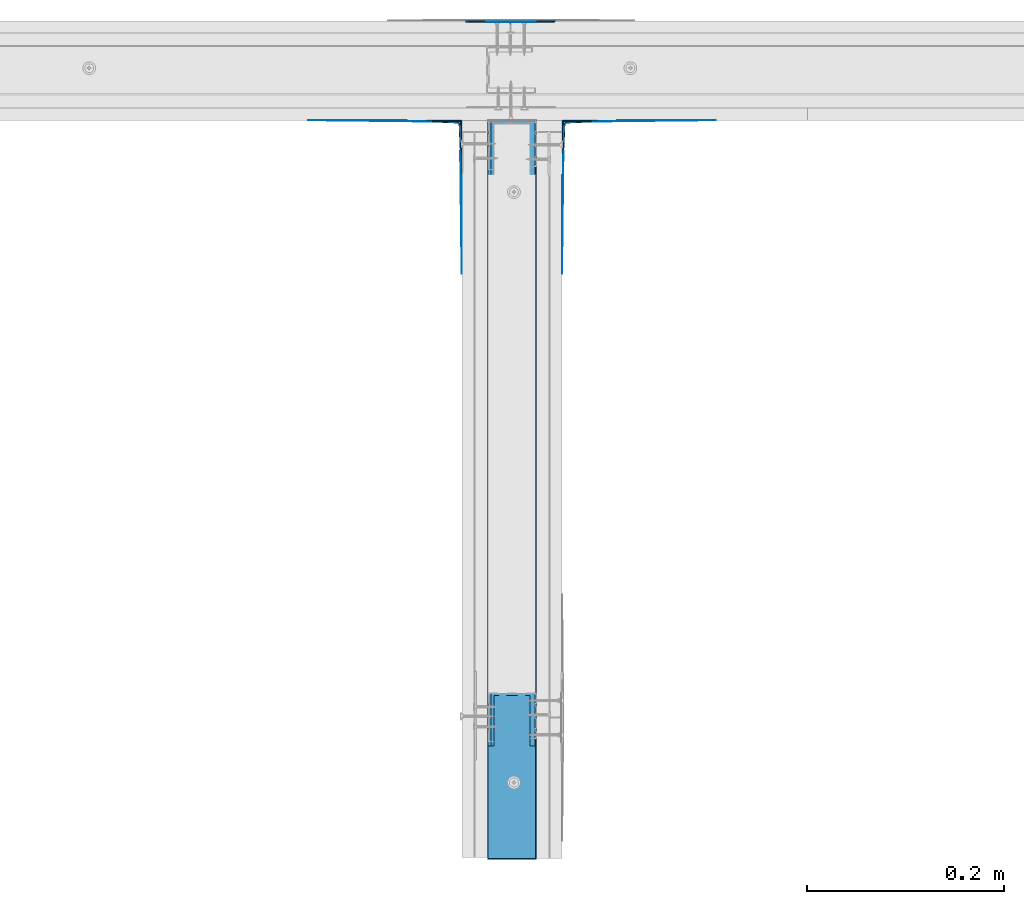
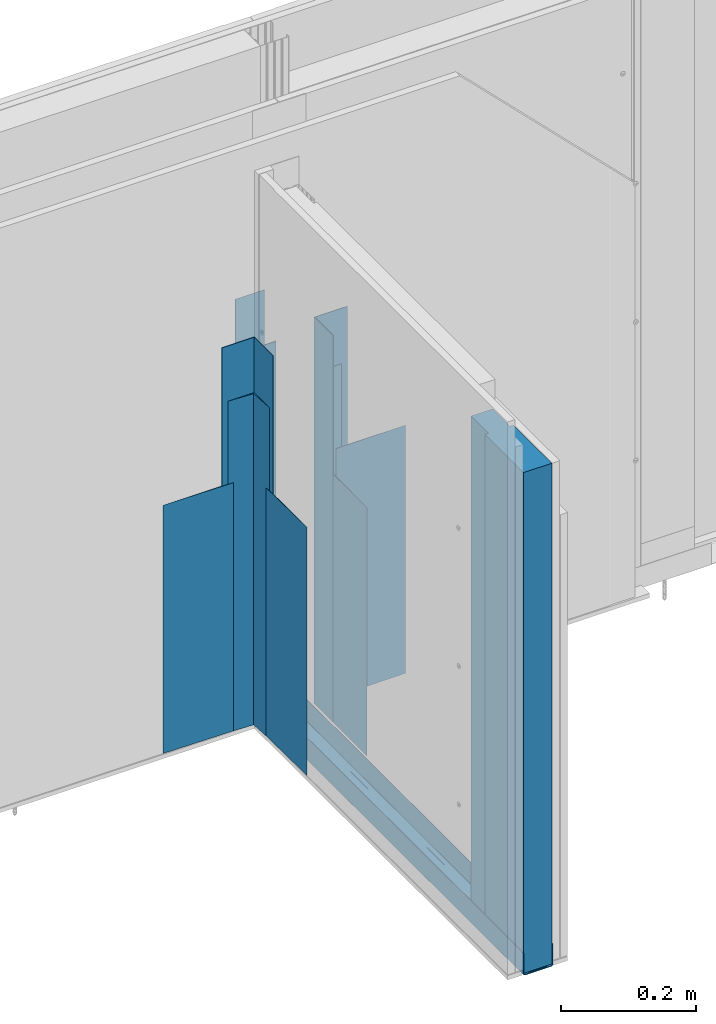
# One storey, part 5 of 89: 13 walls.
"""IFC2X3 building model written with IfcOpenShell, lengths in millimetres."""

import ifcopenshell
import ifcopenshell.guid

model = None  # the IFC model being written
_history = None  # IfcOwnerHistory: only IFC2X3 demands one
_inside = {}  # id of a spatial element -> (the spatial element, [elements in it])
_under = {}  # id of a project, library or spatial element -> (it, [spatial elements below it])
_declared = {}  # id of a project -> (the project, [libraries it declares])
_typed = {}  # id of a type object -> (the type object, [elements of that type])
_made_of = {}  # id of a material, layer set ... -> (it, [elements and type objects made of it])


def new_model(schema):
    """Start an empty IFC model of exactly this schema.

    Asked for "IFC4X3", IfcOpenShell would pick the latest addendum, in which some entities
    have other attributes; the version numbers below select the first issue.
    IFC2X3 requires an IfcOwnerHistory on every rooted entity: one is made here for all.
    """
    global model, _history
    if schema == "IFC4X3":
        model = ifcopenshell.file(schema_version=(4, 3, 0, 0))
    else:
        model = ifcopenshell.file(schema=schema)
    _inside.clear()
    _under.clear()
    _declared.clear()
    _typed.clear()
    _made_of.clear()
    _history = None
    if model.schema == "IFC2X3":
        org = make("IfcOrganization", Name="unknown")
        user = make(
            "IfcPersonAndOrganization",
            ThePerson=make("IfcPerson", FamilyName="unknown"),
            TheOrganization=org,
        )
        app = make(
            "IfcApplication",
            ApplicationDeveloper=org,
            Version="unknown",
            ApplicationFullName="unknown",
            ApplicationIdentifier="unknown",
        )
        _history = make(
            "IfcOwnerHistory",
            OwningUser=user,
            OwningApplication=app,
            ChangeAction="ADDED",
            CreationDate=0,
        )
    return model


def make(cls, **values):
    """One entity of the class cls with the attributes given. An attribute that is None is left unset."""
    return model.create_entity(
        cls, **{name: value for name, value in values.items() if value is not None}
    )


def entity(cls, *values):
    """Any entity or typed value of the class cls, its attributes in the order of the schema. None: left unset."""
    e = model.create_entity(cls)
    for i, value in enumerate(values):
        if value is not None:
            e[i] = value
    return e


def rooted(cls, **values):
    """An entity with a GlobalId (a new one), such as an element, a storey or a relation."""
    return make(cls, GlobalId=ifcopenshell.guid.new(), OwnerHistory=_history, **values)


def si_unit(unit_type, name, prefix=None):
    """IfcSIUnit, for example si_unit("LENGTHUNIT", "METRE", prefix="MILLI")."""
    return make("IfcSIUnit", UnitType=unit_type, Prefix=prefix, Name=name)


def converted_unit(unit_type, name, factor, base, dimensions=None, offset=None):
    """IfcConversionBasedUnit, such as the inch: factor (a typed value) times the base unit."""
    return make(
        "IfcConversionBasedUnit"
        if offset is None
        else "IfcConversionBasedUnitWithOffset",
        ConversionOffset=offset,
        Dimensions=None
        if dimensions is None
        else entity("IfcDimensionalExponents", *dimensions),
        UnitType=unit_type,
        Name=name,
        ConversionFactor=make(
            "IfcMeasureWithUnit", ValueComponent=factor, UnitComponent=base
        ),
    )


def assignment(units):
    """IfcUnitAssignment: the units of a project."""
    return None if units is None else make("IfcUnitAssignment", Units=units)


def point(xyz):
    """IfcCartesianPoint."""
    return None if xyz is None else make("IfcCartesianPoint", Coordinates=xyz)


def direction(xyz):
    """IfcDirection."""
    return None if xyz is None else make("IfcDirection", DirectionRatios=xyz)


def frame(location, z_axis=None, x_axis=None):
    """IfcAxis2Placement3D, a coordinate frame: its origin and axes. An axis left out is left unset."""
    return make(
        "IfcAxis2Placement3D",
        Location=point(location),
        Axis=direction(z_axis),
        RefDirection=direction(x_axis),
    )


def origin():
    """The frame at (0, 0, 0) with its axes left unset."""
    return frame((0.0, 0.0, 0.0))


def origin_with_axes():
    """The frame at (0, 0, 0) with the z axis (0, 0, 1) and the x axis (1, 0, 0) written out."""
    return frame((0.0, 0.0, 0.0), z_axis=(0.0, 0.0, 1.0), x_axis=(1.0, 0.0, 0.0))


def place(relative_to, where):
    """IfcLocalPlacement: puts the frame where relative to a parent placement (None: the world)."""
    return make(
        "IfcLocalPlacement", PlacementRelTo=relative_to, RelativePlacement=where
    )


def context(
    kind, dimensions, precision=None, world=None, true_north=None, identifier=None
):
    """IfcGeometricRepresentationContext, for example the 3D "Model" context."""
    return make(
        "IfcGeometricRepresentationContext",
        ContextIdentifier=identifier,
        ContextType=kind,
        CoordinateSpaceDimension=dimensions,
        Precision=precision,
        WorldCoordinateSystem=world,
        TrueNorth=true_north,
    )


def project(units=None, contexts=None):
    """IfcProject with its units and contexts."""
    return rooted(
        "IfcProject",
        Name="project",
        RepresentationContexts=contexts,
        UnitsInContext=assignment(units),
    )


def spatial(cls, under=None, at=None, **own):
    """A site, building, storey or space (cls), placed at a placement, below another one or the project."""
    s = rooted(cls, ObjectPlacement=at, **own)
    if under is not None:
        _under.setdefault(under.id(), (under, []))[1].append(s)
    return s


def faces_of(points, faces, orient=None, outer=None):
    """IfcFace entities. A face is a list of loops; a loop is a list of indices into points, from 0.

    orient and outer hold one flag for each loop. By default every Orientation is true, the
    first loop of a face is its IfcFaceOuterBound and the others are IfcFaceBound.
    """
    made = []
    for i, loops in enumerate(faces):
        bounds = []
        for j, loop in enumerate(loops):
            is_outer = j == 0 if outer is None else outer[i][j]
            bounds.append(
                make(
                    "IfcFaceOuterBound" if is_outer else "IfcFaceBound",
                    Bound=make("IfcPolyLoop", Polygon=[points[k] for k in loop]),
                    Orientation=True if orient is None else orient[i][j],
                )
            )
        made.append(make("IfcFace", Bounds=bounds))
    return made


def faceted_brep(points, faces, orient=None, outer=None, voids=None):
    """IfcFacetedBrep: a solid bounded by flat faces; with voids (closed shells), ...WithVoids."""
    shared = [point(p) for p in points]
    hull = make("IfcClosedShell", CfsFaces=faces_of(shared, faces, orient, outer))
    if voids is None:
        return make("IfcFacetedBrep", Outer=hull)
    return make(
        "IfcFacetedBrepWithVoids",
        Outer=hull,
        Voids=[
            make(cls, CfsFaces=faces_of(shared, fs, o, b)) for cls, fs, o, b in voids
        ],
    )


def shape(context_of_items, identifier, shape_type, items):
    """IfcShapeRepresentation: the items that make up one representation, for example the "Body"."""
    return make(
        "IfcShapeRepresentation",
        ContextOfItems=context_of_items,
        RepresentationIdentifier=identifier,
        RepresentationType=shape_type,
        Items=items,
    )


def made_of(thing, what):
    """Note that an element or type object is made of a material, layer set ...; save() writes the relation."""
    if what is not None:
        _made_of.setdefault(what.id(), (what, []))[1].append(thing)
    return thing


def element(
    cls,
    number,
    at=None,
    inside=None,
    cuts=None,
    type_object=None,
    material=None,
    context=None,
    identifier="Body",
    shape_type=None,
    held_by="IfcProductDefinitionShape",
    body=None,
    shapes=None,
    **own,
):
    """One element of the class cls, such as IfcWall. Its Tag is "e" and its number.

    at: its placement. inside: the storey or other place that contains it. cuts: it is an
    opening in that element (IfcRelVoidsElement). A single representation is given by context,
    identifier, shape_type and body (its items); several are given by shapes. held_by: the class
    of the entity that holds the representations. save() writes the other relations.
    """
    e = rooted(cls, Tag="e%d" % number, ObjectPlacement=at, **own)
    if body is not None:
        shapes = [shape(context, identifier, shape_type, body)]
    if shapes is not None:
        e.Representation = make(held_by, Representations=shapes)
    if inside is not None:
        _inside.setdefault(inside.id(), (inside, []))[1].append(e)
    if cuts is not None:
        rooted(
            "IfcRelVoidsElement", RelatingBuildingElement=cuts, RelatedOpeningElement=e
        )
    if type_object is not None:
        _typed.setdefault(type_object.id(), (type_object, []))[1].append(e)
    return made_of(e, material)


def aggregate(whole, parts):
    """IfcRelAggregates: a whole, such as a stair, and the parts it consists of."""
    return rooted("IfcRelAggregates", RelatingObject=whole, RelatedObjects=parts)


def save(model, path):
    """Write the relations noted so far, then the file.

    IfcRelAggregates (storeys below a building ...), IfcRelContainedInSpatialStructure (elements
    in a storey), IfcRelDefinesByType, IfcRelAssociatesMaterial and IfcRelDeclares: one each for
    every whole, place, type object, material and project.
    """
    for whole, parts in _under.values():
        aggregate(whole, parts)
    for where, things in _inside.values():
        rooted(
            "IfcRelContainedInSpatialStructure",
            RelatedElements=things,
            RelatingStructure=where,
        )
    for kind, things in _typed.values():
        rooted("IfcRelDefinesByType", RelatedObjects=things, RelatingType=kind)
    for what, things in _made_of.values():
        rooted("IfcRelAssociatesMaterial", RelatedObjects=things, RelatingMaterial=what)
    for by, libraries in _declared.values():
        rooted("IfcRelDeclares", RelatingContext=by, RelatedDefinitions=libraries)
    model.write(path)


model = new_model("IFC2X3")

# Units and contexts
model_context = context("Model", 3, precision=1e-05, world=origin(), true_north=direction((0.0, 1.0, 0.0)))
ifc_project = project(units=[si_unit("LENGTHUNIT", "METRE", prefix="MILLI"), si_unit("AREAUNIT", "SQUARE_METRE"), si_unit("VOLUMEUNIT", "CUBIC_METRE"), converted_unit("PLANEANGLEUNIT", "DEGREE", entity("IfcPlaneAngleMeasure", 0.01745), si_unit("PLANEANGLEUNIT", "RADIAN"), dimensions=[0, 0, 0, 0, 0, 0, 0]), si_unit("SOLIDANGLEUNIT", "STERADIAN"), si_unit("MASSUNIT", "GRAM"), si_unit("TIMEUNIT", "SECOND"), si_unit("THERMODYNAMICTEMPERATUREUNIT", "DEGREE_CELSIUS"), si_unit("LUMINOUSINTENSITYUNIT", "LUMEN")], contexts=[model_context])

# Site, building, storey
site_placement = place(None, origin_with_axes())
site = spatial("IfcSite", under=ifc_project, at=site_placement, Name="Default Site", CompositionType="ELEMENT")
building_placement = place(site_placement, origin_with_axes())
building = spatial("IfcBuilding", under=site, at=building_placement, Name="Default Building", CompositionType="ELEMENT")
storey_placement = place(building_placement, origin_with_axes())
storey = spatial("IfcBuildingStorey", under=building, at=storey_placement, Name="Default Building Storey", CompositionType="ELEMENT", Elevation=0.0)

# Walls
wall_1_placement = place(storey_placement, frame((6271.757332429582, 1398.641032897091, 8.248997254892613), z_axis=(-6.858158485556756e-13, -8.981899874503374e-14, 1.0), x_axis=(9.63732535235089e-16, -1.0, -6.464899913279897e-14)))
element("IfcWall", 1, at=wall_1_placement, inside=storey, Name="Profil RIGIPS UW 50 ULTRASTIL®", context=model_context, shape_type="Brep", body=[
    faceted_brep([(-623.1047574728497, -3479.733223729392, 35.00000000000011), (-623.1047574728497, -3480.283223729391, 35.00000000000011), (-623.1047574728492, -3480.283223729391, -4.19999999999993), (-623.1047574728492, -3480.273374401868, -4.32514757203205), (-623.1047574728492, -3480.244068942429, -4.447213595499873), (-623.1047574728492, -3480.196028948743, -4.563192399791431), (-623.1047574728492, -3480.130437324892, -4.670228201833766), (-623.1047574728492, -3480.04890915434, -4.765685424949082), (-623.1047574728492, -3479.953451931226, -4.84721359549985), (-623.1047574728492, -3479.846416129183, -4.912805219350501), (-623.1047574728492, -3479.730437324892, -4.960845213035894), (-623.1047574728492, -3479.608371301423, -4.990150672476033), (-623.1047574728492, -3479.483223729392, -4.999999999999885), (-623.1047574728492, -3470.908620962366, -4.999999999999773), (-623.1047574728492, -3470.686924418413, -4.975115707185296), (-623.1047574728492, -3470.476261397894, -4.901701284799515), (-623.1047574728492, -3470.128902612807, -4.626130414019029), (-623.1047574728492, -3470.009494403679, -4.437688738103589), (-623.1047574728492, -3469.68072520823, -3.762311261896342), (-623.1047574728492, -3469.561316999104, -3.573869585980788), (-623.1047574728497, -3469.403103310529, -3.416589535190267), (-623.1047574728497, -3469.213958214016, -3.298298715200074), (-623.1047574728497, -3469.003295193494, -3.224884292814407), (-623.1047574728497, -3468.781598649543, -3.19999999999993), (-623.1047574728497, -3441.78484880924, -3.199999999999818), (-623.1047574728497, -3441.563152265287, -3.224884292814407), (-623.1047574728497, -3441.352489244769, -3.298298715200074), (-623.1047574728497, -3441.163344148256, -3.416589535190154), (-623.1047574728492, -3441.005130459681, -3.573869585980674), (-623.1047574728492, -3440.885722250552, -3.762311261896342), (-623.1047574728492, -3440.556953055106, -4.437688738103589), (-623.1047574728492, -3440.437544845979, -4.626130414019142), (-623.1047574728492, -3440.279331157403, -4.783410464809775), (-623.1047574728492, -3439.87952304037, -4.97511570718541), (-623.1047574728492, -3439.657826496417, -4.999999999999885), (-623.1047574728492, -3431.083223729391, -4.999999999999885), (-623.1047574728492, -3430.95807615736, -4.990150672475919), (-623.1047574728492, -3430.836010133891, -4.960845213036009), (-623.1047574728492, -3430.7200313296, -4.912805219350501), (-623.1047574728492, -3430.612995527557, -4.847213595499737), (-623.1047574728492, -3430.517538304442, -4.765685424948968), (-623.1047574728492, -3430.436010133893, -4.670228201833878), (-623.1047574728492, -3430.370418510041, -4.563192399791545), (-623.1047574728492, -3430.322378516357, -4.447213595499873), (-623.1047574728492, -3430.293073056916, -4.32514757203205), (-623.1047574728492, -3430.283223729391, -4.19999999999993), (-623.1047574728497, -3430.283223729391, 35.00000000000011), (-623.1047574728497, -3430.833223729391, 35.00000000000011), (-623.1047574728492, -3430.833223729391, -4.19999999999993), (-623.1047574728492, -3430.836301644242, -4.239108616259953), (-623.1047574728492, -3430.845459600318, -4.277254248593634), (-623.1047574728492, -3430.860472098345, -4.313497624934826), (-623.1047574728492, -3430.880969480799, -4.34694631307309), (-623.1047574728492, -3430.906447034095, -4.376776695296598), (-623.1047574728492, -3430.93627741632, -4.402254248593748), (-623.1047574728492, -3430.969726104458, -4.422751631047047), (-623.1047574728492, -3431.005969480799, -4.437764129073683), (-623.1047574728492, -3431.044115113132, -4.446922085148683), (-623.1047574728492, -3431.083223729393, -4.44999999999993), (-623.1047574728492, -3439.313858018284, -4.450000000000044), (-623.1047574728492, -3439.535554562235, -4.425115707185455), (-623.1047574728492, -3439.746217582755, -4.351701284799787), (-623.1047574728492, -3439.935362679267, -4.233410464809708), (-623.1047574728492, -3440.093576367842, -4.076130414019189), (-623.1047574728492, -3440.21298457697, -3.88768873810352), (-623.1047574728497, -3440.541753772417, -3.212311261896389), (-623.1047574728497, -3440.661161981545, -3.023869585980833), (-623.1047574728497, -3440.819375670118, -2.866589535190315), (-623.1047574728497, -3441.219183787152, -2.674884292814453), (-623.1047574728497, -3441.440880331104, -2.649999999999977), (-623.1047574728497, -3469.125567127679, -2.649999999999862), (-623.1047574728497, -3469.347263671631, -2.674884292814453), (-623.1047574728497, -3469.557926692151, -2.748298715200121), (-623.1047574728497, -3469.905285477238, -3.023869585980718), (-623.1047574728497, -3470.024693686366, -3.212311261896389), (-623.1047574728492, -3470.353462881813, -3.88768873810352), (-623.1047574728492, -3470.472871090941, -4.076130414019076), (-623.1047574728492, -3470.631084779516, -4.233410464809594), (-623.1047574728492, -3470.82022987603, -4.351701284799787), (-623.1047574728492, -3471.030892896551, -4.425115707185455), (-623.1047574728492, -3471.252589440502, -4.44999999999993), (-623.1047574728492, -3479.483223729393, -4.449999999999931), (-623.1047574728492, -3479.522332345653, -4.446922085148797), (-623.1047574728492, -3479.560477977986, -4.437764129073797), (-623.1047574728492, -3479.596721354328, -4.422751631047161), (-623.1047574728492, -3479.630170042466, -4.402254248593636), (-623.1047574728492, -3479.660000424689, -4.376776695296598), (-623.1047574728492, -3479.685477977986, -4.34694631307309), (-623.1047574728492, -3479.705975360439, -4.313497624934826), (-623.1047574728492, -3479.720987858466, -4.277254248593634), (-623.1047574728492, -3479.730145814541, -4.239108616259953), (-623.1047574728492, -3479.733223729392, -4.19999999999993), (127.7471376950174, -3480.283223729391, -4.200000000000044), (127.7471376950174, -3480.283223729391, 35.0), (127.7471376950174, -3479.733223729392, 35.0), (127.7471376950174, -3479.733223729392, -4.200000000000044), (127.7471376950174, -3479.730145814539, -4.239108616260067), (127.7471376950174, -3479.720987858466, -4.277254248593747), (127.7471376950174, -3479.705975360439, -4.313497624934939), (127.7471376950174, -3479.685477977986, -4.346946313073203), (127.7471376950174, -3479.660000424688, -4.376776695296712), (127.7471376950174, -3479.630170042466, -4.402254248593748), (127.7471376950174, -3479.596721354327, -4.422751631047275), (127.7471376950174, -3479.560477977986, -4.43776412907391), (127.7471376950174, -3479.522332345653, -4.446922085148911), (127.7471376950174, -3479.483223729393, -4.450000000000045), (127.7471376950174, -3471.252589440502, -4.450000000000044), (127.7471376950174, -3471.03089289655, -4.425115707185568), (127.7471376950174, -3470.820229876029, -4.351701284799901), (127.7471376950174, -3470.631084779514, -4.233410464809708), (127.7471376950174, -3470.472871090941, -4.076130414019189), (127.7471376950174, -3470.353462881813, -3.887688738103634), (127.7471376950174, -3470.024693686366, -3.212311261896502), (127.7471376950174, -3469.905285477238, -3.023869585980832), (127.7471376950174, -3469.557926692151, -2.748298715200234), (127.7471376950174, -3469.34726367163, -2.674884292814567), (127.7471376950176, -3469.125567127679, -2.649999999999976), (127.7471376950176, -3441.440880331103, -2.65000000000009), (127.7471376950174, -3441.219183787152, -2.674884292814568), (127.7471376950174, -3440.819375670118, -2.866589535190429), (127.7471376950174, -3440.661161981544, -3.023869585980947), (127.7471376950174, -3440.541753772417, -3.212311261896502), (127.7471376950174, -3440.212984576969, -3.887688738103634), (127.7471376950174, -3440.093576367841, -4.076130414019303), (127.7471376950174, -3439.935362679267, -4.233410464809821), (127.7471376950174, -3439.746217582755, -4.351701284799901), (127.7471376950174, -3439.535554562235, -4.425115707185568), (127.7471376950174, -3439.313858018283, -4.450000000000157), (127.7471376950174, -3431.083223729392, -4.450000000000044), (127.7471376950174, -3431.044115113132, -4.446922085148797), (127.7471376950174, -3431.005969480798, -4.437764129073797), (127.7471376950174, -3430.969726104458, -4.422751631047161), (127.7471376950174, -3430.936277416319, -4.402254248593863), (127.7471376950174, -3430.906447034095, -4.376776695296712), (127.7471376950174, -3430.880969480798, -4.346946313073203), (127.7471376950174, -3430.860472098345, -4.313497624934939), (127.7471376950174, -3430.845459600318, -4.277254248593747), (127.7471376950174, -3430.836301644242, -4.239108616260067), (127.7471376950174, -3430.833223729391, -4.200000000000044), (127.7471376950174, -3430.833223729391, 35.0), (127.7471376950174, -3430.283223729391, 35.0), (127.7471376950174, -3430.283223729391, -4.200000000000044), (127.7471376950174, -3430.293073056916, -4.325147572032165), (127.7471376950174, -3430.322378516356, -4.447213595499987), (127.7471376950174, -3430.370418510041, -4.563192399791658), (127.7471376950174, -3430.436010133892, -4.670228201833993), (127.7471376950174, -3430.517538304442, -4.765685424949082), (127.7471376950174, -3430.612995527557, -4.84721359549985), (127.7471376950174, -3430.7200313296, -4.912805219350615), (127.7471376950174, -3430.836010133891, -4.960845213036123), (127.7471376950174, -3430.958076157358, -4.990150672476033), (127.7471376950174, -3431.083223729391, -4.999999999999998), (127.7471376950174, -3439.657826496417, -4.999999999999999), (127.7471376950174, -3439.879523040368, -4.975115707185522), (127.7471376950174, -3440.279331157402, -4.783410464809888), (127.7471376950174, -3440.437544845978, -4.626130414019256), (127.7471376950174, -3440.556953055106, -4.437688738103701), (127.7471376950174, -3440.885722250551, -3.762311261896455), (127.7471376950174, -3441.005130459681, -3.573869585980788), (127.7471376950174, -3441.163344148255, -3.416589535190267), (127.7471376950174, -3441.352489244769, -3.298298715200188), (127.7471376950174, -3441.563152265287, -3.224884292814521), (127.7471376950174, -3441.78484880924, -3.199999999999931), (127.7471376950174, -3468.781598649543, -3.200000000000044), (127.7471376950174, -3469.003295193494, -3.224884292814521), (127.7471376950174, -3469.213958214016, -3.298298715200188), (127.7471376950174, -3469.403103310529, -3.416589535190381), (127.7471376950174, -3469.561316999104, -3.573869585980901), (127.7471376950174, -3469.680725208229, -3.762311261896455), (127.7471376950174, -3470.009494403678, -4.437688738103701), (127.7471376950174, -3470.128902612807, -4.626130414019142), (127.7471376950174, -3470.476261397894, -4.901701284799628), (127.7471376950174, -3470.686924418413, -4.97511570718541), (127.7471376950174, -3470.908620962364, -4.999999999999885), (127.7471376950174, -3479.483223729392, -4.999999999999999), (127.7471376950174, -3479.608371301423, -4.990150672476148), (127.7471376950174, -3479.73043732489, -4.960845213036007), (127.7471376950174, -3479.846416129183, -4.912805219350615), (127.7471376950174, -3479.953451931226, -4.847213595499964), (127.7471376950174, -3480.04890915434, -4.765685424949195), (127.7471376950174, -3480.130437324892, -4.670228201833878), (127.7471376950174, -3480.196028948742, -4.563192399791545), (127.7471376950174, -3480.244068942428, -4.447213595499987), (127.7471376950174, -3480.273374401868, -4.325147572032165), (-623.1047574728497, -3441.008520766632, -2.748298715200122), (127.7471376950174, -3441.008520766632, -2.748298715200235), (-623.1047574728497, -3469.747071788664, -2.8665895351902), (127.7471376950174, -3469.747071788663, -2.866589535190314), (-623.1047574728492, -3470.063927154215, -4.535249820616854), (127.7471376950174, -3470.063927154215, -4.535249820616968), (-623.1047574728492, -3470.287116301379, -4.783410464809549), (127.7471376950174, -3470.287116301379, -4.783410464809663), (-623.1047574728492, -3440.09018606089, -4.901701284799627), (127.7471376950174, -3440.09018606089, -4.90170128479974)], [[[0, 1, 2, 3, 4, 5, 6, 7, 8, 9, 10, 11, 12, 13, 14, 15, 16, 17, 18, 19, 20, 21, 22, 23, 24, 25, 26, 27, 28, 29, 30, 31, 32, 33, 34, 35, 36, 37, 38, 39, 40, 41, 42, 43, 44, 45, 46, 47, 48, 49, 50, 51, 52, 53, 54, 55, 56, 57, 58, 59, 60, 61, 62, 63, 64, 65, 66, 67, 68, 69, 70, 71, 72, 73, 74, 75, 76, 77, 78, 79, 80, 81, 82, 83, 84, 85, 86, 87, 88, 89, 90, 91]], [[92, 93, 94, 95, 96, 97, 98, 99, 100, 101, 102, 103, 104, 105, 106, 107, 108, 109, 110, 111, 112, 113, 114, 115, 116, 117, 118, 119, 120, 121, 122, 123, 124, 125, 126, 127, 128, 129, 130, 131, 132, 133, 134, 135, 136, 137, 138, 139, 140, 141, 142, 143, 144, 145, 146, 147, 148, 149, 150, 151, 152, 153, 154, 155, 156, 157, 158, 159, 160, 161, 162, 163, 164, 165, 166, 167, 168, 169, 170, 171, 172, 173, 174, 175, 176, 177, 178, 179, 180, 181, 182, 183]], [[45, 141, 140, 46]], [[46, 140, 139, 47]], [[47, 139, 138, 48]], [[128, 58, 57, 129]], [[56, 130, 129, 57]], [[55, 131, 130, 56]], [[131, 55, 54, 132]], [[53, 133, 132, 54]], [[133, 53, 52, 134]], [[51, 135, 134, 52]], [[50, 136, 135, 51]], [[136, 50, 49, 137]], [[48, 138, 137, 49]], [[58, 128, 127, 59]], [[63, 123, 122, 64]], [[62, 124, 123, 63]], [[61, 125, 124, 62]], [[127, 126, 60, 59]], [[60, 126, 125, 61]], [[64, 122, 121, 65]], [[68, 118, 117, 69]], [[184, 185, 118, 68]], [[67, 119, 185, 184]], [[66, 120, 119, 67]], [[121, 120, 66, 65]], [[69, 117, 116, 70]], [[73, 113, 112, 74]], [[186, 187, 113, 73]], [[72, 114, 187, 186]], [[71, 115, 114, 72]], [[116, 115, 71, 70]], [[74, 112, 111, 75]], [[79, 107, 106, 80]], [[78, 108, 107, 79]], [[77, 109, 108, 78]], [[111, 110, 76, 75]], [[76, 110, 109, 77]], [[80, 106, 105, 81]], [[95, 91, 90, 96]], [[89, 97, 96, 90]], [[88, 98, 97, 89]], [[98, 88, 87, 99]], [[86, 100, 99, 87]], [[100, 86, 85, 101]], [[84, 102, 101, 85]], [[83, 103, 102, 84]], [[103, 83, 82, 104]], [[81, 105, 104, 82]], [[91, 95, 94, 0]], [[0, 94, 93, 1]], [[1, 93, 92, 2]], [[11, 10, 176, 175]], [[175, 174, 12, 11]], [[9, 177, 176, 10]], [[8, 7, 179, 178]], [[178, 177, 9, 8]], [[6, 5, 181, 180]], [[180, 179, 7, 6]], [[4, 182, 181, 5]], [[3, 2, 92, 183]], [[183, 182, 4, 3]], [[12, 174, 173, 13]], [[188, 16, 170, 189]], [[189, 169, 17, 188]], [[190, 191, 170, 16]], [[15, 171, 191, 190]], [[14, 172, 171, 15]], [[173, 172, 14, 13]], [[17, 169, 168, 18]], [[22, 164, 163, 23]], [[21, 165, 164, 22]], [[20, 166, 165, 21]], [[168, 167, 19, 18]], [[19, 167, 166, 20]], [[23, 163, 162, 24]], [[28, 158, 157, 29]], [[27, 159, 158, 28]], [[26, 160, 159, 27]], [[162, 161, 25, 24]], [[25, 161, 160, 26]], [[29, 157, 156, 30]], [[33, 153, 152, 34]], [[192, 193, 153, 33]], [[32, 154, 193, 192]], [[31, 155, 154, 32]], [[156, 155, 31, 30]], [[34, 152, 151, 35]], [[44, 43, 143, 142]], [[142, 141, 45, 44]], [[42, 144, 143, 43]], [[41, 40, 146, 145]], [[145, 144, 42, 41]], [[39, 38, 148, 147]], [[147, 146, 40, 39]], [[37, 149, 148, 38]], [[36, 35, 151, 150]], [[150, 149, 37, 36]]]),
])
wall_2_placement = place(storey_placement, frame((6272.757332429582, 1395.188407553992, 8.248997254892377), z_axis=(-6.858158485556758e-13, -8.981899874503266e-14, 1.0), x_axis=(-3.649221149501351e-16, -1.0, -6.464899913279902e-14)))
element("IfcWall", 2, at=wall_2_placement, inside=storey, Name="Taśma uszczelniająca piankowa RIGIPS", context=model_context, shape_type="Brep", body=[
    faceted_brep([(-626.5573828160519, -3477.783223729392, -5.000000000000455), (-626.5573828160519, -3477.862841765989, -6.006369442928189), (-626.5573828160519, -3432.691889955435, -5.864971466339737), (-626.5573828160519, -3432.783223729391, -5.000000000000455), (124.2945123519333, -3477.862841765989, -6.006369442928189), (124.2945123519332, -3477.783223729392, -5.000000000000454), (124.2945123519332, -3432.783223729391, -5.000000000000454), (124.2945123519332, -3432.691889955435, -5.864971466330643)], [[[0, 1, 2, 3]], [[4, 5, 6, 7]], [[5, 0, 3, 6]], [[6, 3, 2, 7]], [[7, 2, 1, 4]], [[4, 1, 0, 5]]]),
])
wall_3_placement = place(storey_placement, frame((6271.778123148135, 1276.117588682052, 7.664898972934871), z_axis=(-8.464376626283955e-14, 7.617938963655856e-13, 1.0), x_axis=(4.440892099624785e-16, -1.0, 6.174155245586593e-13)))
element("IfcWall", 3, at=wall_3_placement, inside=storey, Name="Wełna mineralna szklana lub skalna ISOVER", context=model_context, shape_type="Brep", body=[
    faceted_brep([(-161.2775660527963, -3473.633223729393, -2.065901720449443), (-161.277566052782, -3473.633223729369, 902.3357444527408), (-109.9235473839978, -3473.633223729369, 902.335744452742), (-109.9235473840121, -3473.633223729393, -2.065901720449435), (-109.9235473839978, -3479.633223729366, 902.3357444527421), (-109.9235473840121, -3479.633223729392, -2.065901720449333), (-161.2775660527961, -3436.833223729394, -2.06590172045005), (-161.277566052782, -3436.833223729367, 902.3357444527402), (-109.9235473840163, -3436.833223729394, -2.065901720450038), (-109.9235473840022, -3436.833223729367, 902.3357444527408), (-109.9235473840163, -3431.283223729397, -2.065901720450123), (3.979796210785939, -3431.283223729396, -2.065901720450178), (3.979796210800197, -3431.28322372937, 902.3357444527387), (-109.9235473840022, -3431.283223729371, 902.3357444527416), (3.979796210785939, -3479.633223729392, -2.065901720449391), (3.979796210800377, -3479.633223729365, 902.3357444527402)], [[[0, 1, 2, 3]], [[3, 2, 4, 5]], [[1, 0, 6, 7]], [[7, 6, 8, 9]], [[10, 11, 12, 13]], [[9, 8, 10, 13]], [[3, 5, 14, 11, 10, 8, 6, 0]], [[4, 15, 14, 5]], [[15, 4, 2, 1, 7, 9, 13, 12]], [[14, 15, 12, 11]]]),
])
wall_4_placement = place(storey_placement, frame((2762.474108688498, 1976.140922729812, 811.7516461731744), z_axis=(-2.892047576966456e-11, 2.634976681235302e-11, 1.0), x_axis=(3.608225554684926e-16, 1.0, -2.634976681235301e-11)))
element("IfcWall", 4, at=wall_4_placement, inside=storey, Name="Taśma narożnikowa HABITO® NO-COAT®", context=model_context, shape_type="Brep", body=[
    faceted_brep([(44.99999999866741, 1.999999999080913, -201.651578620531), (42.99999999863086, -7.829129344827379e-10, -201.6515786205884), (42.99999999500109, -3.099887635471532e-09, -800.0015816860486), (45.0000000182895, 2.000000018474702, -800.001581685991), (40.99999999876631, -2.000000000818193, -201.6515786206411), (40.99999999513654, -2.000000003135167, -800.0015816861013), (44.99999999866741, -2.000000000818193, -201.6515786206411), (44.99999999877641, -1.999999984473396, -800.0015816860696), (44.99999999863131, 42.99999999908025, -201.651578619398), (45.00000001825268, 43.00000001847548, -800.001581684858), (-1.233746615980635e-09, -2.00000000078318, -201.6515786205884), (-4.863517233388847e-09, -2.000000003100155, -800.0015816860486)], [[[0, 1, 2, 3]], [[1, 4, 5, 2]], [[4, 6, 7, 5]], [[6, 0, 3, 7]], [[7, 3, 2, 5]], [[0, 6, 4, 1]], [[1, 8, 0]], [[8, 1, 2, 9]], [[0, 8, 9, 3]], [[3, 9, 2]], [[10, 1, 4]], [[1, 10, 11, 2]], [[10, 4, 5, 11]], [[11, 5, 2]]]),
])
wall_5_placement = place(storey_placement, frame((2762.474108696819, 1866.140922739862, 610.100067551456), z_axis=(0.0, 0.0, 1.0), x_axis=(3.618549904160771e-13, 1.0, 0.0)))
element("IfcWall", 5, at=wall_5_placement, inside=storey, Name="Dedykowana masa szpachlowa Rigips - wykończeniowa", context=model_context, shape_type="Brep", body=[
    faceted_brep([(4.483385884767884e-13, -3.000000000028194, -598.3500030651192), (100.0000000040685, -3.000000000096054, -598.3500030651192), (100.0000000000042, -2.000000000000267, -598.3500030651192), (100.0000000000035, -1.827216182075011, -598.3500030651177), (125.0248246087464, -1.533729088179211, -149.9999999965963), (1.125130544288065e-12, -3.000000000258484, -149.9999999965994), (125.0248246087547, -1.533729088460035, -598.3500030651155), (114.999999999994, -2.000000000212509, -149.9999999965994), (100.0000000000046, -2.000000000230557, -149.9999999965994), (100.0000000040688, -3.000000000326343, -149.9999999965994)], [[[0, 1, 2, 3]], [[4, 5, 0, 3, 6]], [[4, 7, 8, 9, 5]], [[5, 9, 1, 0]], [[9, 8, 2, 1]]]),
])
wall_6_placement = place(storey_placement, frame((2685.47410869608, 2022.140922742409, 610.1000675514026), z_axis=(0.0, 0.0, 1.0), x_axis=(1.0, 0.0, 0.0)))
element("IfcWall", 6, at=wall_6_placement, inside=storey, Name="Dedykowana masa szpachlowa Rigips - konstrukcyjna", context=model_context, shape_type="Brep", body=[
    faceted_brep([(23.99999999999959, -9.796337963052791e-10, 100.0000000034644), (23.99999999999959, -1.000000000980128, 100.000000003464), (23.99999999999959, -0.9999999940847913, -598.3500030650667), (23.99999999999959, 5.915703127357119e-09, -598.3500030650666), (79.0000000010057, -1.000000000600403, 100.0000000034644), (79.0000000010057, -0.999999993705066, -598.3500030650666), (79.0000000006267, -56.0000000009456, 100.0000000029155), (79.0000000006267, -55.99999999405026, -598.350003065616), (80.0000000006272, -56.0000000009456, 100.0000000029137), (80.0000000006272, -55.99999999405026, -598.3500030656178), (79.99999999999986, -9.796337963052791e-10, 100.0000000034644), (79.99999999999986, 5.915703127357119e-09, -598.3500030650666)], [[[0, 1, 2, 3]], [[1, 4, 5, 2]], [[4, 6, 7, 5]], [[6, 8, 9, 7]], [[8, 10, 11, 9]], [[10, 0, 3, 11]], [[11, 3, 2, 5, 7, 9]], [[0, 10, 8, 6, 4, 1]]]),
])
wall_7_placement = place(storey_placement, frame((2609.474108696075, 2019.140922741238, 610.100067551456), z_axis=(0.0, 0.0, 1.0), x_axis=(1.0, -3.613775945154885e-13, 0.0)))
element("IfcWall", 7, at=wall_7_placement, inside=storey, Name="Dedykowana masa szpachlowa Rigips - wykończeniowa", context=model_context, shape_type="Brep", body=[
    faceted_brep([(4.475309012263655e-13, 3.000000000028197, -598.3500030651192), (100.0000000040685, 3.000000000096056, -598.3500030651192), (100.0000000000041, 2.000000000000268, -598.3500030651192), (100.0000000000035, 1.827216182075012, -598.3500030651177), (125.0248246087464, 1.533729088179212, -149.9999999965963), (1.12432285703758e-12, 3.000000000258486, -149.9999999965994), (125.0248246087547, 1.533729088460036, -598.3500030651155), (114.9999999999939, 2.00000000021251, -149.9999999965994), (100.0000000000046, 2.000000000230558, -149.9999999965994), (100.0000000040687, 3.000000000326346, -149.9999999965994)], [[[0, 1, 2, 3]], [[4, 5, 0, 3, 6]], [[4, 7, 8, 9, 5]], [[5, 9, 1, 0]], [[9, 8, 2, 1]]]),
])
wall_8_placement = place(storey_placement, frame((2947.474108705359, 2022.140922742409, 610.1000675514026), z_axis=(0.0, 0.0, 1.0), x_axis=(-1.0, 0.0, 0.0)))
element("IfcWall", 8, at=wall_8_placement, inside=storey, Name="Dedykowana masa szpachlowa Rigips - konstrukcyjna", context=model_context, shape_type="Brep", body=[
    faceted_brep([(23.99999999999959, 9.796337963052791e-10, 100.0000000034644), (23.99999999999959, 1.000000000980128, 100.000000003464), (23.99999999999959, 0.9999999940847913, -598.3500030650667), (23.99999999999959, -5.915703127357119e-09, -598.3500030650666), (79.0000000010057, 1.000000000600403, 100.0000000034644), (79.0000000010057, 0.999999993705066, -598.3500030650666), (79.0000000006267, 56.0000000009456, 100.0000000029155), (79.0000000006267, 55.99999999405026, -598.350003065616), (80.0000000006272, 56.0000000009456, 100.0000000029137), (80.0000000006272, 55.99999999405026, -598.3500030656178), (79.99999999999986, 9.796337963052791e-10, 100.0000000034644), (79.99999999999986, -5.915703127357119e-09, -598.3500030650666)], [[[0, 1, 2, 3]], [[1, 4, 5, 2]], [[4, 6, 7, 5]], [[6, 8, 9, 7]], [[8, 10, 11, 9]], [[10, 0, 3, 11]], [[11, 3, 2, 5, 7, 9]], [[0, 10, 8, 6, 4, 1]]]),
])
wall_9_placement = place(storey_placement, frame((2870.474108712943, 1976.140922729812, 811.7516461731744), z_axis=(2.892047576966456e-11, 2.634976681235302e-11, 1.0), x_axis=(-3.608225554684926e-16, 1.0, -2.634976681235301e-11)))
element("IfcWall", 9, at=wall_9_placement, inside=storey, Name="Taśma narożnikowa HABITO® NO-COAT®", context=model_context, shape_type="Brep", body=[
    faceted_brep([(44.99999999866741, -1.999999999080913, -201.651578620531), (42.99999999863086, 7.829129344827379e-10, -201.6515786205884), (42.99999999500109, 3.099887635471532e-09, -800.0015816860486), (45.0000000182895, -2.000000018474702, -800.001581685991), (40.99999999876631, 2.000000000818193, -201.6515786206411), (40.99999999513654, 2.000000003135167, -800.0015816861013), (44.99999999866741, 2.000000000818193, -201.6515786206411), (44.99999999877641, 1.999999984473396, -800.0015816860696), (44.99999999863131, -42.99999999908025, -201.651578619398), (45.00000001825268, -43.00000001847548, -800.001581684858), (-1.233746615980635e-09, 2.00000000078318, -201.6515786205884), (-4.863517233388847e-09, 2.000000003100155, -800.0015816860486)], [[[0, 1, 2, 3]], [[1, 4, 5, 2]], [[4, 6, 7, 5]], [[6, 0, 3, 7]], [[7, 3, 2, 5]], [[0, 6, 4, 1]], [[1, 8, 0]], [[8, 1, 2, 9]], [[0, 8, 9, 3]], [[3, 9, 2]], [[10, 1, 4]], [[1, 10, 11, 2]], [[10, 4, 5, 11]], [[11, 5, 2]]]),
])
wall_10_placement = place(storey_placement, frame((3023.474108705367, 2019.140922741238, 610.100067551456), z_axis=(0.0, 0.0, 1.0), x_axis=(-1.0, -3.613775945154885e-13, 0.0)))
element("IfcWall", 10, at=wall_10_placement, inside=storey, Name="Dedykowana masa szpachlowa Rigips - wykończeniowa", context=model_context, shape_type="Brep", body=[
    faceted_brep([(4.475309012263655e-13, -3.000000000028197, -598.3500030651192), (100.0000000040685, -3.000000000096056, -598.3500030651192), (100.0000000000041, -2.000000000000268, -598.3500030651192), (100.0000000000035, -1.827216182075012, -598.3500030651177), (125.0248246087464, -1.533729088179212, -149.9999999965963), (1.12432285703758e-12, -3.000000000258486, -149.9999999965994), (125.0248246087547, -1.533729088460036, -598.3500030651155), (114.9999999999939, -2.00000000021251, -149.9999999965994), (100.0000000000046, -2.000000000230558, -149.9999999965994), (100.0000000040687, -3.000000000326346, -149.9999999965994)], [[[0, 1, 2, 3]], [[4, 5, 0, 3, 6]], [[4, 7, 8, 9, 5]], [[5, 9, 1, 0]], [[9, 8, 2, 1]]]),
])
wall_11_placement = place(storey_placement, frame((2870.474108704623, 1866.140922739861, 610.100067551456), z_axis=(0.0, 0.0, 1.0), x_axis=(-3.618549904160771e-13, 1.0, 0.0)))
element("IfcWall", 11, at=wall_11_placement, inside=storey, Name="Dedykowana masa szpachlowa Rigips - wykończeniowa", context=model_context, shape_type="Brep", body=[
    faceted_brep([(4.483385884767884e-13, 3.000000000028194, -598.3500030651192), (100.0000000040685, 3.000000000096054, -598.3500030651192), (100.0000000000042, 2.000000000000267, -598.3500030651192), (100.0000000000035, 1.827216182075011, -598.3500030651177), (125.0248246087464, 1.533729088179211, -149.9999999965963), (1.125130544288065e-12, 3.000000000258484, -149.9999999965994), (125.0248246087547, 1.533729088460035, -598.3500030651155), (114.999999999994, 2.000000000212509, -149.9999999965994), (100.0000000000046, 2.000000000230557, -149.9999999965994), (100.0000000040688, 3.000000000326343, -149.9999999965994)], [[[0, 1, 2, 3]], [[4, 5, 0, 3, 6]], [[4, 7, 8, 9, 5]], [[5, 9, 1, 0]], [[9, 8, 2, 1]]]),
])
wall_12_placement = place(storey_placement, frame((2078.08568306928, -1267.454953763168, 7.54842138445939), z_axis=(0.0, 0.0, 1.0), x_axis=(-1.0, -8.049116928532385e-16, 0.0)))
element("IfcWall", 12, at=wall_12_placement, inside=storey, Name="Taśma spoinowa RIGIPS", context=model_context, shape_type="Brep", body=[
    faceted_brep([(-712.4592163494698, -3389.356721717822, 700.7999999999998), (-712.4592163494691, -3389.856721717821, 700.7999999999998), (-762.4592163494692, -3389.856721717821, 700.7999999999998), (-762.45921634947, -3389.35672171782, 700.7999999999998), (-712.4592163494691, -3389.856721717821, 2.449996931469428), (-712.4592163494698, -3389.35672171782, 2.449996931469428), (-762.45921634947, -3389.35672171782, 2.449996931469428), (-762.4592163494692, -3389.856721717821, 2.449996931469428)], [[[0, 1, 2, 3]], [[4, 5, 6, 7]], [[5, 0, 3, 6]], [[6, 3, 2, 7]], [[7, 2, 1, 4]], [[4, 1, 0, 5]]]),
])
wall_13_placement = place(storey_placement, frame((3552.004115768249, -1267.454953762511, 7.548421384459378), z_axis=(0.0, 0.0, 1.0), x_axis=(1.0, 0.0, 0.0)))
element("IfcWall", 13, at=wall_13_placement, inside=storey, Name="Dedykowana masa szpachlowa Rigips - konstrukcyjna", context=model_context, shape_type="Brep", body=[
    faceted_brep([(-737.4838396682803, 3387.669590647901, 600.7999999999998), (-737.4592163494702, 3387.356721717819, 600.7999999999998), (-737.434593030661, 3387.669590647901, 600.7999999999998), (-737.3613293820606, 3387.974755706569, 600.7999999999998), (-737.2412293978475, 3388.264702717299, 600.7999999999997), (-737.07725033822, 3388.532292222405, 600.7999999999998), (-736.8734299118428, 3388.770935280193, 600.7999999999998), (-736.6347868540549, 3388.974755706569, 600.7999999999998), (-736.3671973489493, 3389.138734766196, 600.7999999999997), (-736.0772503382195, 3389.25883475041, 600.7999999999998), (-735.7720852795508, 3389.332098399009, 600.7999999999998), (-735.45921634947, 3389.356721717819, 600.8000000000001), (-692.4592163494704, 3389.35672171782, 600.8000000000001), (-691.4592163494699, 3390.55672171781, 600.7999999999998), (-782.4592163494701, 3390.556721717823, 600.8000000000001), (-782.4592163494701, 3389.356721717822, 600.8000000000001), (-739.4592163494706, 3389.356721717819, 600.8000000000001), (-739.1463474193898, 3389.332098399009, 600.7999999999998), (-738.8411823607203, 3389.25883475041, 600.7999999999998), (-738.5512353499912, 3389.138734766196, 600.8000000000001), (-738.2836458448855, 3388.974755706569, 600.8000000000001), (-738.0450027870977, 3388.770935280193, 600.7999999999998), (-737.8411823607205, 3388.532292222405, 600.7999999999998), (-737.6772033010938, 3388.264702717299, 600.7999999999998), (-737.55710331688, 3387.974755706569, 600.7999999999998), (-691.4592163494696, 3390.556721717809, 2.449996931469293), (-692.45921634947, 3389.356721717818, 2.449996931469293), (-735.4592163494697, 3389.356721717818, 2.449996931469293), (-735.7720852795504, 3389.332098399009, 2.449996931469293), (-736.0772503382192, 3389.258834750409, 2.449996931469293), (-736.3671973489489, 3389.138734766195, 2.449996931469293), (-736.6347868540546, 3388.974755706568, 2.449996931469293), (-736.8734299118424, 3388.770935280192, 2.449996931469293), (-737.0772503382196, 3388.532292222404, 2.449996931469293), (-737.2412293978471, 3388.264702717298, 2.449996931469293), (-737.3613293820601, 3387.974755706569, 2.449996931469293), (-737.4345930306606, 3387.6695906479, 2.449996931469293), (-737.4592163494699, 3387.356721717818, 2.449996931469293), (-737.48383966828, 3387.6695906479, 2.449996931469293), (-737.5571033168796, 3387.974755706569, 2.449996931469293), (-737.6772033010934, 3388.264702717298, 2.449996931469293), (-737.8411823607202, 3388.532292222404, 2.449996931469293), (-738.0450027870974, 3388.770935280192, 2.449996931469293), (-738.2836458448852, 3388.974755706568, 2.449996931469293), (-738.5512353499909, 3389.138734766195, 2.449996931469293), (-738.8411823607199, 3389.258834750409, 2.449996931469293), (-739.1463474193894, 3389.332098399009, 2.449996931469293), (-739.4592163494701, 3389.356721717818, 2.449996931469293), (-782.4592163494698, 3389.356721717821, 2.449996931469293), (-782.4592163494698, 3390.556721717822, 2.449996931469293)], [[[0, 1, 2, 3, 4, 5, 6, 7, 8, 9, 10, 11, 12, 13, 14, 15, 16, 17, 18, 19, 20, 21, 22, 23, 24]], [[25, 26, 27, 28, 29, 30, 31, 32, 33, 34, 35, 36, 37, 38, 39, 40, 41, 42, 43, 44, 45, 46, 47, 48, 49]], [[26, 12, 11, 27]], [[10, 9, 29, 28]], [[28, 27, 11, 10]], [[8, 30, 29, 9]], [[7, 6, 32, 31]], [[31, 30, 8, 7]], [[5, 4, 34, 33]], [[33, 32, 6, 5]], [[3, 35, 34, 4]], [[2, 1, 37, 36]], [[36, 35, 3, 2]], [[0, 24, 39, 38]], [[38, 37, 1, 0]], [[23, 40, 39, 24]], [[22, 21, 42, 41]], [[41, 40, 23, 22]], [[20, 19, 44, 43]], [[43, 42, 21, 20]], [[18, 45, 44, 19]], [[17, 16, 47, 46]], [[46, 45, 18, 17]], [[47, 16, 15, 48]], [[48, 15, 14, 49]], [[49, 14, 13, 25]], [[25, 13, 12, 26]]]),
])

save(model, "model.ifc")
